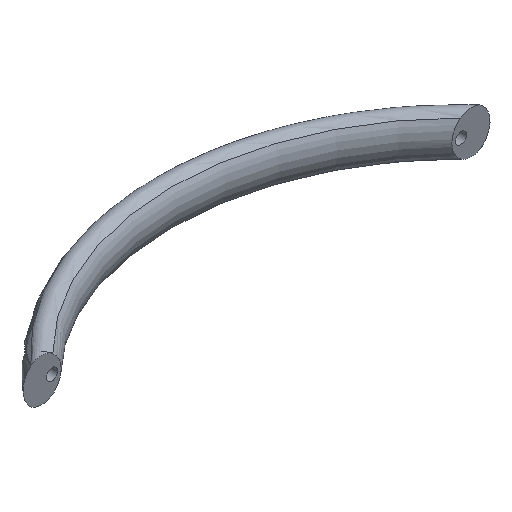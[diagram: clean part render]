
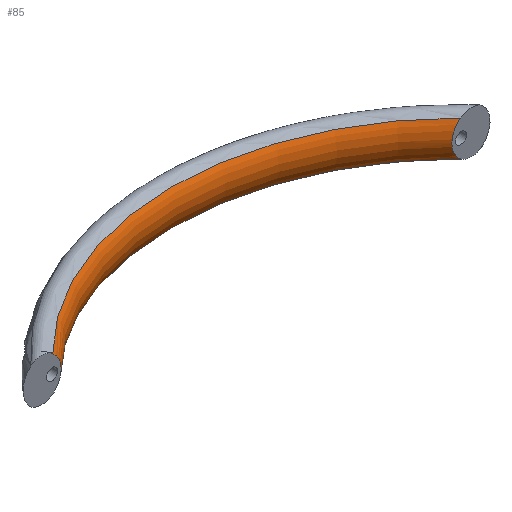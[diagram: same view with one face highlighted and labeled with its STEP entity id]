
A CAD part, isometric view. The second image highlights one B-rep face of the part: STEP entity #85.
In plain terms, the highlighted toroidal (fillet/blend) face has major radius 146.163 mm and minor radius 13.914 mm.
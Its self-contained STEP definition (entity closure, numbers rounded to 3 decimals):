
#85 = ADVANCED_FACE( '', ( #119 ), #120, .T. );
#119 = FACE_OUTER_BOUND( '', #161, .T. );
#120 = TOROIDAL_SURFACE( '', #162, 146.163, 13.914 );
#161 = EDGE_LOOP( '', ( #247, #248, #249, #250 ) );
#162 = AXIS2_PLACEMENT_3D( '', #251, #252, #253 );
#247 = ORIENTED_EDGE( '', *, *, #310, .F. );
#248 = ORIENTED_EDGE( '', *, *, #302, .T. );
#249 = ORIENTED_EDGE( '', *, *, #311, .T. );
#250 = ORIENTED_EDGE( '', *, *, #297, .T. );
#251 = CARTESIAN_POINT( '', ( 0., -95.249, 0. ) );
#252 = DIRECTION( '', ( 0., 0., -1. ) );
#253 = DIRECTION( '', ( -1., 0., 0. ) );
#297 = EDGE_CURVE( '', #340, #337, #341, .T. );
#302 = EDGE_CURVE( '', #350, #347, #351, .T. );
#310 = EDGE_CURVE( '', #350, #337, #360, .T. );
#311 = EDGE_CURVE( '', #347, #340, #361, .T. );
#337 = VERTEX_POINT( '', #520 );
#340 = VERTEX_POINT( '', #542 );
#341 = B_SPLINE_CURVE_WITH_KNOTS( '', 3, ( #543, #544, #545, #546, #547, #548, #549, #550, #551, #552, #553, #554, #555, #556, #557, #558, #559, #560, #561, #562, #563, #564, #565, #566, #567, #568, #569, #570 ), .UNSPECIFIED., .F., .F., ( 4, 2, 2, 2, 2, 2, 2, 2, 2, 2, 2, 2, 2, 4 ), ( 0.095, 0.096, 0.098, 0.1, 0.101, 0.102, 0.105, 0.106, 0.107, 0.108, 0.109, 0.112, 0.113, 0.114 ), .UNSPECIFIED. );
#347 = VERTEX_POINT( '', #620 );
#350 = VERTEX_POINT( '', #644 );
#351 = B_SPLINE_CURVE_WITH_KNOTS( '', 3, ( #645, #646, #647, #648, #649, #650, #651, #652, #653, #654, #655, #656, #657, #658, #659, #660, #661, #662, #663, #664, #665, #666, #667, #668, #669, #670 ), .UNSPECIFIED., .F., .F., ( 4, 2, 2, 2, 2, 2, 2, 2, 2, 2, 2, 2, 4 ), ( 0.045, 0.047, 0.048, 0.05, 0.051, 0.052, 0.054, 0.055, 0.057, 0.058, 0.059, 0.061, 0.064 ), .UNSPECIFIED. );
#360 = CIRCLE( '', #750, 135.011 );
#361 = CIRCLE( '', #751, 135.011 );
#520 = CARTESIAN_POINT( '', ( 95.685, 0., 8.321 ) );
#542 = CARTESIAN_POINT( '', ( 95.685, 0., -8.321 ) );
#543 = CARTESIAN_POINT( '', ( 95.685, 0., -8.321 ) );
#544 = CARTESIAN_POINT( '', ( 95.398, 0., -8.049 ) );
#545 = CARTESIAN_POINT( '', ( 95.12, 0., -7.764 ) );
#546 = CARTESIAN_POINT( '', ( 94.59, 0., -7.176 ) );
#547 = CARTESIAN_POINT( '', ( 94.338, 0., -6.873 ) );
#548 = CARTESIAN_POINT( '', ( 93.624, 0., -5.935 ) );
#549 = CARTESIAN_POINT( '', ( 93.203, 0., -5.27 ) );
#550 = CARTESIAN_POINT( '', ( 92.672, 0., -4.2 ) );
#551 = CARTESIAN_POINT( '', ( 92.514, 0., -3.835 ) );
#552 = CARTESIAN_POINT( '', ( 92.239, 0., -3.09 ) );
#553 = CARTESIAN_POINT( '', ( 92.121, 0., -2.708 ) );
#554 = CARTESIAN_POINT( '', ( 91.841, 0., -1.557 ) );
#555 = CARTESIAN_POINT( '', ( 91.746, 0., -0.78 ) );
#556 = CARTESIAN_POINT( '', ( 91.747, 0., 0.404 ) );
#557 = CARTESIAN_POINT( '', ( 91.772, 0., 0.803 ) );
#558 = CARTESIAN_POINT( '', ( 91.869, 0., 1.586 ) );
#559 = CARTESIAN_POINT( '', ( 91.941, 0., 1.971 ) );
#560 = CARTESIAN_POINT( '', ( 92.129, 0., 2.733 ) );
#561 = CARTESIAN_POINT( '', ( 92.245, 0., 3.108 ) );
#562 = CARTESIAN_POINT( '', ( 92.52, 0., 3.849 ) );
#563 = CARTESIAN_POINT( '', ( 92.679, 0., 4.215 ) );
#564 = CARTESIAN_POINT( '', ( 93.206, 0., 5.274 ) );
#565 = CARTESIAN_POINT( '', ( 93.626, 0., 5.939 ) );
#566 = CARTESIAN_POINT( '', ( 94.346, 0., 6.883 ) );
#567 = CARTESIAN_POINT( '', ( 94.6, 0., 7.188 ) );
#568 = CARTESIAN_POINT( '', ( 95.127, 0., 7.772 ) );
#569 = CARTESIAN_POINT( '', ( 95.401, 0., 8.052 ) );
#570 = CARTESIAN_POINT( '', ( 95.685, 0., 8.321 ) );
#620 = CARTESIAN_POINT( '', ( -95.685, 0., -8.321 ) );
#644 = CARTESIAN_POINT( '', ( -95.685, 0., 8.321 ) );
#645 = CARTESIAN_POINT( '', ( -95.685, 0., 8.321 ) );
#646 = CARTESIAN_POINT( '', ( -95.116, 0., 7.78 ) );
#647 = CARTESIAN_POINT( '', ( -94.587, 0., 7.199 ) );
#648 = CARTESIAN_POINT( '', ( -93.867, 0., 6.254 ) );
#649 = CARTESIAN_POINT( '', ( -93.639, 0., 5.927 ) );
#650 = CARTESIAN_POINT( '', ( -93.22, 0., 5.258 ) );
#651 = CARTESIAN_POINT( '', ( -93.027, 0., 4.915 ) );
#652 = CARTESIAN_POINT( '', ( -92.677, 0., 4.211 ) );
#653 = CARTESIAN_POINT( '', ( -92.52, 0., 3.85 ) );
#654 = CARTESIAN_POINT( '', ( -92.245, 0., 3.109 ) );
#655 = CARTESIAN_POINT( '', ( -92.127, 0., 2.727 ) );
#656 = CARTESIAN_POINT( '', ( -91.844, 0., 1.575 ) );
#657 = CARTESIAN_POINT( '', ( -91.747, 0., 0.798 ) );
#658 = CARTESIAN_POINT( '', ( -91.746, 0., -0.382 ) );
#659 = CARTESIAN_POINT( '', ( -91.77, 0., -0.78 ) );
#660 = CARTESIAN_POINT( '', ( -91.866, 0., -1.569 ) );
#661 = CARTESIAN_POINT( '', ( -91.938, 0., -1.957 ) );
#662 = CARTESIAN_POINT( '', ( -92.126, 0., -2.722 ) );
#663 = CARTESIAN_POINT( '', ( -92.241, 0., -3.098 ) );
#664 = CARTESIAN_POINT( '', ( -92.516, 0., -3.84 ) );
#665 = CARTESIAN_POINT( '', ( -92.675, 0., -4.207 ) );
#666 = CARTESIAN_POINT( '', ( -93.204, 0., -5.27 ) );
#667 = CARTESIAN_POINT( '', ( -93.624, 0., -5.934 ) );
#668 = CARTESIAN_POINT( '', ( -94.576, 0., -7.186 ) );
#669 = CARTESIAN_POINT( '', ( -95.114, 0., -7.778 ) );
#670 = CARTESIAN_POINT( '', ( -95.685, 0., -8.321 ) );
#750 = AXIS2_PLACEMENT_3D( '', #786, #787, #788 );
#751 = AXIS2_PLACEMENT_3D( '', #789, #790, #791 );
#786 = CARTESIAN_POINT( '', ( 0., -95.249, 8.321 ) );
#787 = DIRECTION( '', ( 0., 0., -1. ) );
#788 = DIRECTION( '', ( -1., 0., 0. ) );
#789 = CARTESIAN_POINT( '', ( 0., -95.249, -8.321 ) );
#790 = DIRECTION( '', ( 0., 0., -1. ) );
#791 = DIRECTION( '', ( -1., 0., 0. ) );
